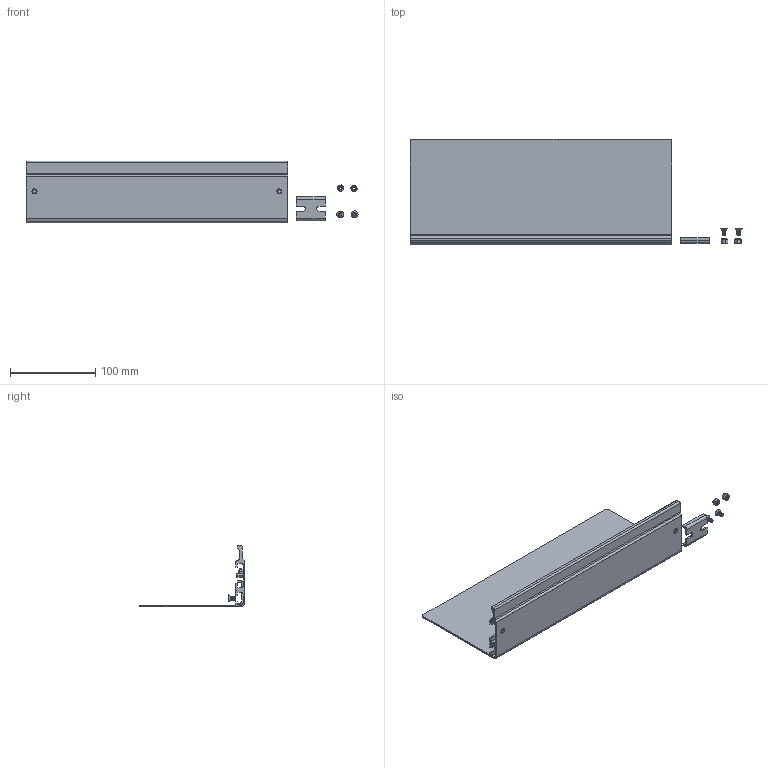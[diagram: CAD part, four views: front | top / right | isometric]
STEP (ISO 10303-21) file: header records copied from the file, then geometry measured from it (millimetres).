
FILE_DESCRIPTION (( 'STEP AP203' ), '1' );
FILE_NAME ('WALL MOUNT TRAY WITH JOINER - 1FT.STEP', '2023-05-25T19:08:36', ( '' ), ( '' ), 'SwSTEP 2.0', 'SolidWorks 2022', '' );
FILE_SCHEMA (( 'CONFIG_CONTROL_DESIGN' ));
Length unit declared in the file: millimetre
Products named in the file (7): NUT-000075-00_NUT-000075-00; WALL MOUNT TRAY WITH JOINER - 1FT; BAS-000025-00_BAS-000025-1Y; SCW-000545-00_SCW-000545-00; PLA-000077-00_PLA-000077-0X; FHS-M4-10-Penn; BAS-000025-00_BAS-000024-10
Assembly tree (9 placements, depth 3):
  WALL MOUNT TRAY WITH JOINER - 1FT
    BAS-000025-00_BAS-000025-1Y
      BAS-000025-00_BAS-000024-10
      FHS-M4-10-Penn  x2
    SCW-000545-00_SCW-000545-00  x2
    NUT-000075-00_NUT-000075-00  x2
    PLA-000077-00_PLA-000077-0X
Bounding box: 390.37 x 124.5 x 72.5 mm (x, y, z)
Volume: 169680.9 mm3; surface area: 146126.8 mm2
Topology: 8 solids, 12 shells, 476 faces, 1242 edges, 790 vertices
Faces by surface type: cylinder 164, plane 102, cone 100, bspline 82, torus 28
Entity records: 16741 total; most frequent: CARTESIAN_POINT 9591, ORIENTED_EDGE 1482, DIRECTION 1147, EDGE_CURVE 743, VERTEX_POINT 478, AXIS2_PLACEMENT_3D 435, EDGE_LOOP 297, ADVANCED_FACE 283
